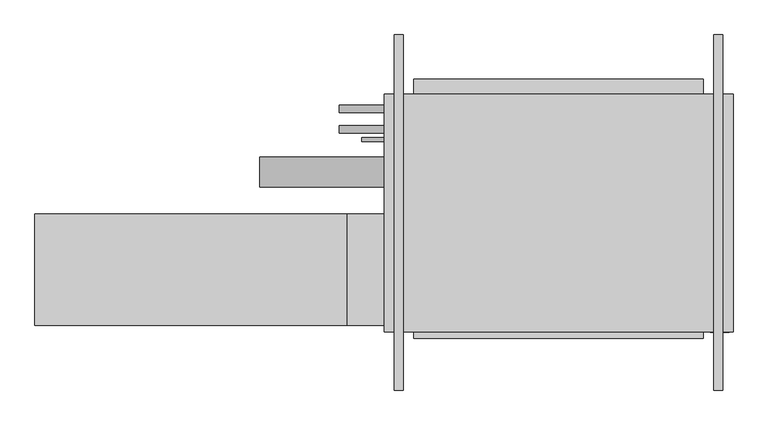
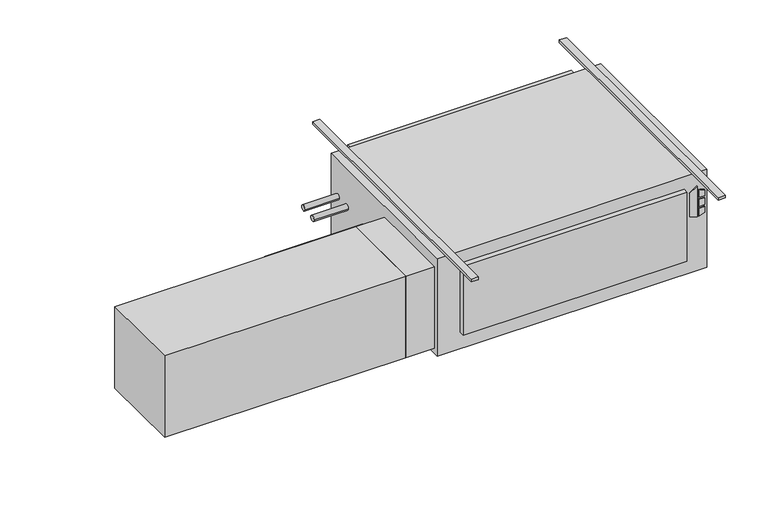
"""IFC4 building model written with IfcOpenShell, lengths in millimetres: proxy geometry."""

from ifc_helpers import new_model, si_unit, point, frame, frame_2d, origin, origin_with_axes, place, context, project, spatial, polyline, circle_curve, trimmed, segment, composite_curve, outline, extrude, source, transform, mapped, element, save


def mechanical_equipment_911e0225(model_context):
    return source(origin(), model_context, "Body", "SweptSolid", [
        extrude(outline(polyline([(-193.2519297, 671.5868862), (-203.2, 703.7602728), (-61.0290756, 703.7602728), (-84.0510817, 671.5868862), (-193.2519297, 671.5868862)])), frame((0.0, -647.7, 0.0), z_axis=(0.0, 1.0, 0.0), x_axis=(0.0, 0.0, 1.0)), (0.0, 0.0, 1.0), 3.175),
        extrude(outline(polyline([(-114.2526443, 710.5186058), (-117.4550368, 736.6), (-88.2261958, 736.6), (-80.1617807, 710.5186058), (-114.2526443, 710.5186058)])), frame((0.0, -647.7, 0.0), z_axis=(0.0, 1.0, 0.0), x_axis=(0.0, 0.0, 1.0)), (0.0, 0.0, 1.0), 3.175),
        extrude(outline(polyline([(-166.1161712, 736.6), (-169.7816721, 710.5186058), (-203.2, 710.5186058), (-194.5657628, 736.6), (-166.1161712, 736.6)])), frame((0.0, -647.7, 0.0), z_axis=(0.0, 1.0, 0.0), x_axis=(0.0, 0.0, 1.0)), (0.0, 0.0, 1.0), 3.175),
        extrude(outline(polyline([(-126.8010097, 736.6), (-124.5191834, 710.5186058), (-160.4567319, 710.5186058), (-157.7154669, 736.6), (-126.8010097, 736.6)])), frame((0.0, -647.7, 0.0), z_axis=(0.0, 1.0, 0.0), x_axis=(0.0, 0.0, 1.0)), (0.0, 0.0, 1.0), 3.175),
        extrude(outline(polyline([(647.7, -666.877), (-342.9, -666.877), (-342.9, -644.525), (647.7, -644.525), (647.7, -666.877)])), frame((0.0, 0.0, -381.0), z_axis=(0.0, 0.0, 1.0), x_axis=(1.0, 0.0, 0.0)), (0.0, 0.0, 1.0), 323.85),
        extrude(outline(polyline([(-1638.3, -622.3), (-1638.3, -241.3), (-571.5, -241.3), (-571.5, -622.3), (-1638.3, -622.3)])), frame((0.0, 0.0, -431.8), z_axis=(0.0, 0.0, 1.0), x_axis=(1.0, 0.0, 0.0)), (0.0, 0.0, 1.0), 381.0),
        extrude(outline(polyline([(-444.5, -241.3), (-444.5, -622.3), (-571.5, -622.3), (-571.5, -241.3), (-444.5, -241.3)])), frame((0.0, 0.0, -431.8), z_axis=(0.0, 0.0, 1.0), x_axis=(1.0, 0.0, 0.0)), (0.0, 0.0, 1.0), 381.0),
        extrude(outline(composite_curve([segment(trimmed(circle_curve(frame_2d((-98.4896516, -228.6360165)), 50.8), [point((-149.2896516, -228.6360165))], [point((-47.6896516, -228.6360165))], False, "CARTESIAN"), True, "CONTINUOUS"), segment(trimmed(circle_curve(frame_2d((-98.4896516, -228.6360165)), 50.8), [point((-47.6896516, -228.6360165))], [point((-149.2896516, -228.6360165))], False, "CARTESIAN"), True, "CONTINUOUS")], self_intersect=False)), frame((-869.95, 0.0, 0.0), z_axis=(1.0, 0.0, 0.0), x_axis=(0.0, 1.0, 0.0)), (0.0, 0.0, 1.0), 425.45),
        extrude(outline(composite_curve([segment(trimmed(circle_curve(frame_2d((47.625, -177.8)), 12.7), [point((34.925, -177.8))], [point((60.325, -177.8))], False, "CARTESIAN"), True, "CONTINUOUS"), segment(trimmed(circle_curve(frame_2d((47.625, -177.8)), 12.7), [point((60.325, -177.8))], [point((34.925, -177.8))], False, "CARTESIAN"), True, "CONTINUOUS")], self_intersect=False)), frame((-596.9, 0.0, 0.0), z_axis=(1.0, 0.0, 0.0), x_axis=(0.0, 1.0, 0.0)), (0.0, 0.0, 1.0), 152.4),
        extrude(outline(composite_curve([segment(trimmed(circle_curve(frame_2d((117.475, -171.45)), 12.7), [point((104.775, -171.45))], [point((130.175, -171.45))], False, "CARTESIAN"), True, "CONTINUOUS"), segment(trimmed(circle_curve(frame_2d((117.475, -171.45)), 12.7), [point((130.175, -171.45))], [point((104.775, -171.45))], False, "CARTESIAN"), True, "CONTINUOUS")], self_intersect=False)), frame((-596.9, 0.0, 0.0), z_axis=(1.0, 0.0, 0.0), x_axis=(0.0, 1.0, 0.0)), (0.0, 0.0, 1.0), 152.4),
        extrude(outline(composite_curve([segment(trimmed(circle_curve(frame_2d((12.7, -409.575)), 6.35), [point((6.35, -409.575))], [point((19.05, -409.575))], False, "CARTESIAN"), True, "CONTINUOUS"), segment(trimmed(circle_curve(frame_2d((12.7, -409.575)), 6.35), [point((19.05, -409.575))], [point((6.35, -409.575))], False, "CARTESIAN"), True, "CONTINUOUS")], self_intersect=False)), frame((-520.7, 0.0, 0.0), z_axis=(1.0, 0.0, 0.0), x_axis=(0.0, 1.0, 0.0)), (0.0, 0.0, 1.0), 76.2),
        extrude(outline(polyline([(749.3, 168.275), (749.3, -644.525), (-444.5, -644.525), (-444.5, 168.275), (749.3, 168.275)])), frame((0.0, 0.0, -457.2), z_axis=(0.0, 0.0, 1.0), x_axis=(1.0, 0.0, 0.0)), (0.0, 0.0, 1.0), 457.2),
        extrude(outline(polyline([(-342.9, 219.075), (647.7, 219.075), (647.7, 168.275), (-342.9, 168.275), (-342.9, 219.075)])), frame((0.0, 0.0, -381.0), z_axis=(0.0, 0.0, 1.0), x_axis=(1.0, 0.0, 0.0)), (0.0, 0.0, 1.0), 355.6),
        extrude(outline(polyline([(-377.825, 371.475), (-377.825, -844.677), (-409.575, -844.677), (-409.575, 371.475), (-377.825, 371.475)])), origin_with_axes(), (0.0, 0.0, 1.0), 12.7),
        extrude(outline(polyline([(714.375, 371.475), (714.375, -844.677), (682.625, -844.677), (682.625, 371.475), (714.375, 371.475)])), origin_with_axes(), (0.0, 0.0, 1.0), 12.7),
    ])


if __name__ == "__main__":
    model = new_model("IFC4")
    model_context = context("Model", 3, world=origin())
    ifc_project = project(units=[si_unit("LENGTHUNIT", "METRE", prefix="MILLI")], contexts=[model_context])
    site = spatial("IfcSite", under=ifc_project)
    building = spatial("IfcBuilding", under=site)
    placement = place(None, origin())
    mechanical_equipment_shape = mechanical_equipment_911e0225(model_context)
    element("IfcBuildingElementProxy", 1, Name="High_Capacity_Horizontal_Cabinet_Fan_Coil_Unit_-_HTY_-_IEC_-_2-Pipe_LH Side_2022 : Size 16 - 115v/60Hz/1Ph - 4/0 Coil - 4\" AirIn", ObjectType="High_Capacity_Horizontal_Cabinet_Fan_Coil_Unit_-_HTY_-_IEC_-_2-Pipe_LH Side_2022 : Size 16 - 115v/60Hz/1Ph - 4/0 Coil - 4\" AirIn", at=placement, inside=building, context=model_context, shape_type="MappedRepresentation", body=[
        mapped(mechanical_equipment_shape, transform((0.0, 0.0, 0.0), x_axis=(1.0, 0.0, 0.0), y_axis=(0.0, 1.0, 0.0), z_axis=(0.0, 0.0, 1.0))),
    ])
    save(model, "model.ifc")
